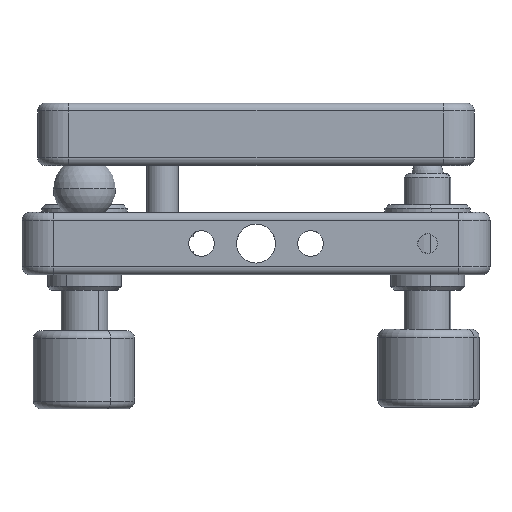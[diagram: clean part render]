
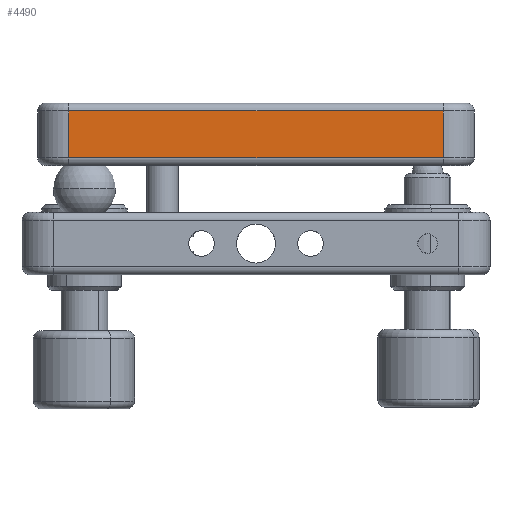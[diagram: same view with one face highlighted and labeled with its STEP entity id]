
A CAD part, front view. The second image highlights one B-rep face of the part: STEP entity #4490.
In plain terms, the highlighted planar face has unit normal (0, -1, 0).
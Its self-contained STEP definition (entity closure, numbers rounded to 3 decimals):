
#30 = CARTESIAN_POINT ( 'NONE',  ( -24., -28., 11. ) ) ;
#684 = EDGE_CURVE ( 'NONE', #3022, #1256, #6688, .T. ) ;
#759 = DIRECTION ( 'NONE',  ( 1., 0., 0. ) ) ;
#807 = EDGE_CURVE ( 'NONE', #2151, #3022, #6484, .T. ) ;
#812 = CARTESIAN_POINT ( 'NONE',  ( -28., -28., 11. ) ) ;
#927 = DIRECTION ( 'NONE',  ( 0., 0., 1. ) ) ;
#953 = CARTESIAN_POINT ( 'NONE',  ( 24., -28., 18. ) ) ;
#1148 = EDGE_CURVE ( 'NONE', #5631, #2151, #6083, .T. ) ;
#1179 = EDGE_CURVE ( 'NONE', #1256, #5631, #6830, .T. ) ;
#1256 = VERTEX_POINT ( 'NONE', #30 ) ;
#1488 = AXIS2_PLACEMENT_3D ( 'NONE', #4393, #2632, #2638 ) ;
#2151 = VERTEX_POINT ( 'NONE', #4220 ) ;
#2397 = CARTESIAN_POINT ( 'NONE',  ( -24., -28., 18. ) ) ;
#2632 = DIRECTION ( 'NONE',  ( 0., 1., 0. ) ) ;
#2638 = DIRECTION ( 'NONE',  ( 0., 0., 1. ) ) ;
#2674 = PLANE ( 'NONE',  #1488 ) ;
#2974 = CARTESIAN_POINT ( 'NONE',  ( 24., -28., 11. ) ) ;
#3022 = VERTEX_POINT ( 'NONE', #4819 ) ;
#4052 = DIRECTION ( 'NONE',  ( 0., 0., -1. ) ) ;
#4162 = EDGE_LOOP ( 'NONE', ( #9327, #4980, #8325, #5209 ) ) ;
#4220 = CARTESIAN_POINT ( 'NONE',  ( 24., -28., 17. ) ) ;
#4393 = CARTESIAN_POINT ( 'NONE',  ( -28., -28., 18. ) ) ;
#4490 = ADVANCED_FACE ( 'NONE', ( #5929 ), #2674, .F. ) ;
#4819 = CARTESIAN_POINT ( 'NONE',  ( -24., -28., 17. ) ) ;
#4980 = ORIENTED_EDGE ( 'NONE', *, *, #807, .T. ) ;
#5209 = ORIENTED_EDGE ( 'NONE', *, *, #1179, .T. ) ;
#5631 = VERTEX_POINT ( 'NONE', #2974 ) ;
#5929 = FACE_OUTER_BOUND ( 'NONE', #4162, .T. ) ;
#6063 = VECTOR ( 'NONE', #927, 1000. ) ;
#6069 = VECTOR ( 'NONE', #759, 1000. ) ;
#6083 = LINE ( 'NONE', #953, #6063 ) ;
#6466 = VECTOR ( 'NONE', #7272, 1000. ) ;
#6484 = LINE ( 'NONE', #7504, #6466 ) ;
#6688 = LINE ( 'NONE', #2397, #6726 ) ;
#6726 = VECTOR ( 'NONE', #4052, 1000. ) ;
#6830 = LINE ( 'NONE', #812, #6069 ) ;
#7272 = DIRECTION ( 'NONE',  ( -1., 0., 0. ) ) ;
#7504 = CARTESIAN_POINT ( 'NONE',  ( -24., -28., 17. ) ) ;
#8325 = ORIENTED_EDGE ( 'NONE', *, *, #684, .T. ) ;
#9327 = ORIENTED_EDGE ( 'NONE', *, *, #1148, .T. ) ;
